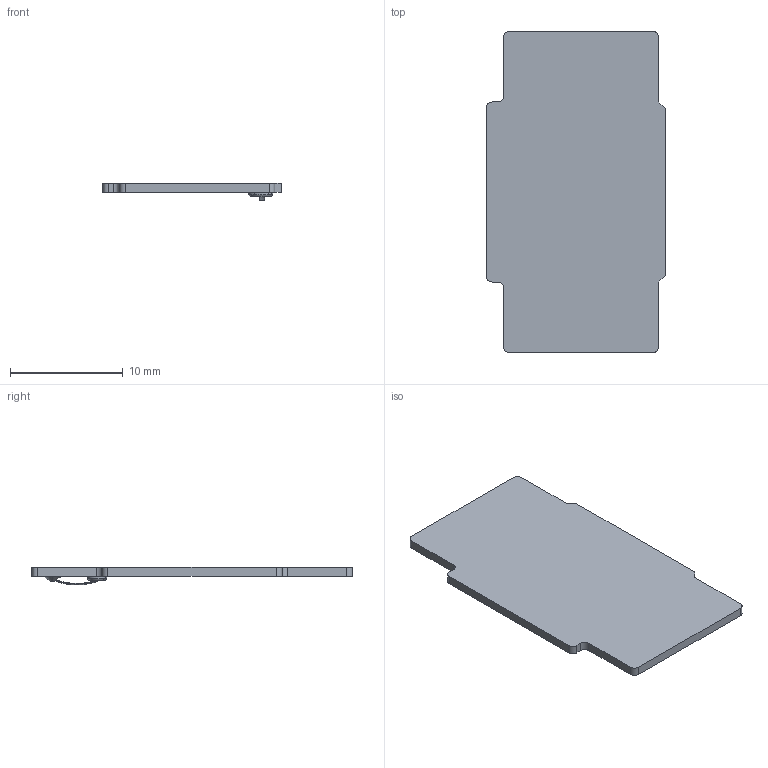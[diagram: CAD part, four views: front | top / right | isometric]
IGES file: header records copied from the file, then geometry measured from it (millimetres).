
Start section:  PTC IGES file: antenna_pcb_any_prt.igs
Global section: file name: antenna_pcb_any_prt.igs; native system: Pro/ENGINEER by Parametric Technology Corporation; preprocessor: 2006170; author: GRA; organization: Unknown; date: 20080630.105137; units: millimetre
Bounding box: 15.9 x 28.5 x 1.59 mm (x, y, z)
Surface area: 927.7 mm2 (no closed solid volume)
Topology: 0 solids, 0 shells, 33 faces, 174 edges, 174 vertices
Faces by surface type: bspline 21, revolution 10, extrusion 2
